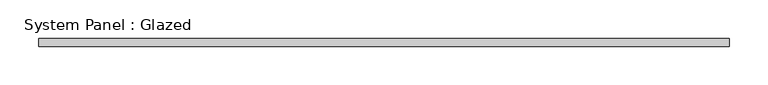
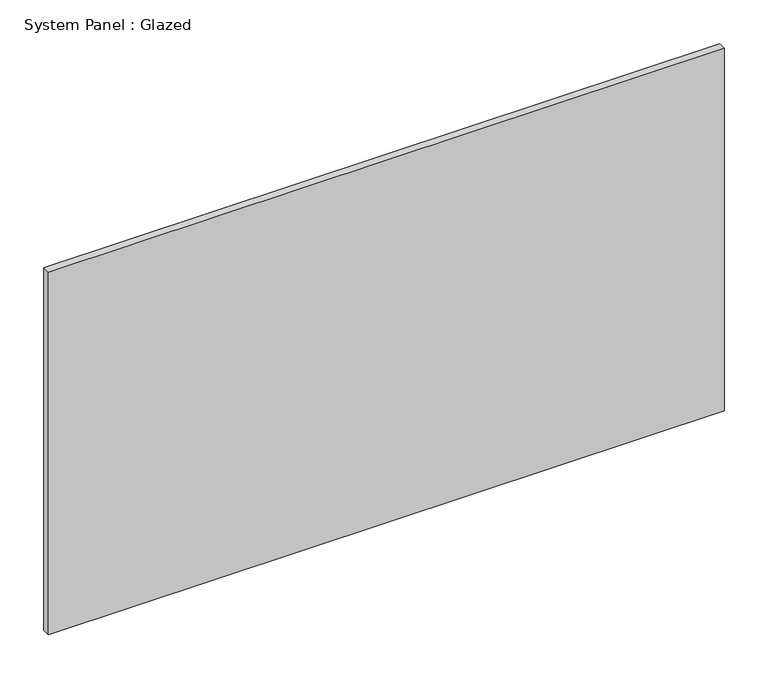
"""IFC4 building model written with IfcOpenShell, lengths in millimetres: plate geometry, System Panel : Glazed."""

from ifc_helpers import new_model, si_unit, origin, origin_with_axes, place, context, project, spatial, polyline, outline, extrude, source, transform, mapped, element, save


def system_panel_glazed_e2e8d64f(model_context):
    return source(origin(), model_context, "Body", "SweptSolid", [
        extrude(outline(polyline([(445.0825808, -5.0), (-445.0825808, -5.0), (-445.0825808, 5.0), (445.0825808, 5.0), (445.0825808, -5.0)])), origin_with_axes(), (0.0, 0.0, 1.0), 505.0),
    ])


if __name__ == "__main__":
    model = new_model("IFC4")
    model_context = context("Model", 3, world=origin())
    ifc_project = project(units=[si_unit("LENGTHUNIT", "METRE", prefix="MILLI")], contexts=[model_context])
    site = spatial("IfcSite", under=ifc_project)
    building = spatial("IfcBuilding", under=site)
    placement = place(None, origin())
    system_panel_glazed_shape = system_panel_glazed_e2e8d64f(model_context)
    element("IfcPlate", 1, ObjectType="System Panel : Glazed", at=placement, inside=building, context=model_context, shape_type="MappedRepresentation", body=[
        mapped(system_panel_glazed_shape, transform((0.0, 0.0, 0.0), x_axis=(1.0, 0.0, 0.0), y_axis=(0.0, 1.0, 0.0), z_axis=(0.0, 0.0, 1.0))),
    ])
    save(model, "model.ifc")
